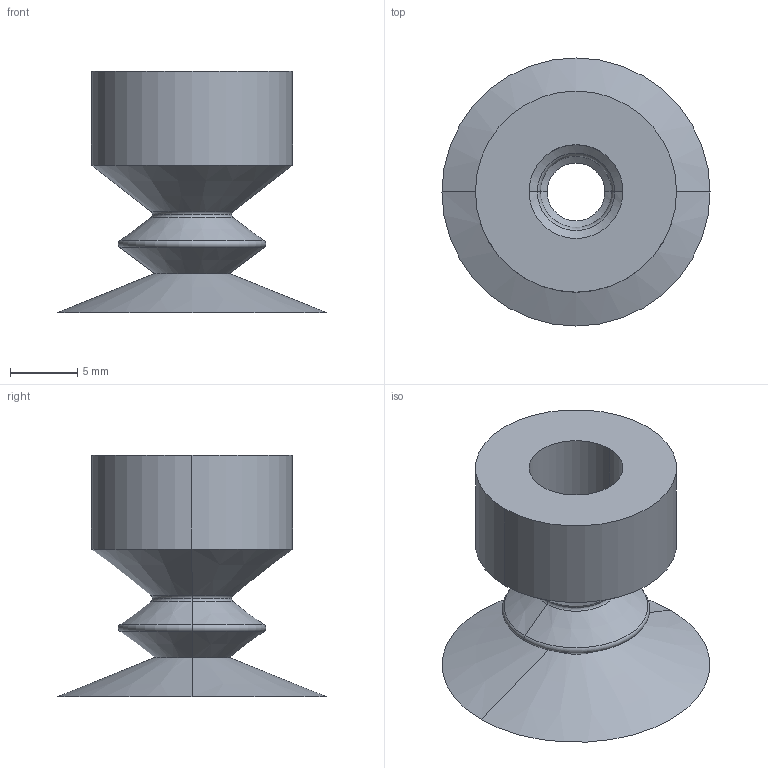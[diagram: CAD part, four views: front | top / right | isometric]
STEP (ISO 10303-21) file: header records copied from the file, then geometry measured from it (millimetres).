
FILE_DESCRIPTION (( 'STEP AP214' ), '1' );
FILE_NAME ('VSH2-S20.STEP', '2019-12-02T05:55:53', ( '微软用户' ), ( '微软中国' ), 'SwSTEP 2.0', 'SolidWorks 2016', '' );
FILE_SCHEMA (( 'AUTOMOTIVE_DESIGN' ));
Length unit declared in the file: millimetre
Products named in the file (1): VSH2-S20
Bounding box: 20 x 20 x 18 mm (x, y, z)
Volume: 914.7 mm3; surface area: 2147.1 mm2
Topology: 1 solids, 1 shells, 35 faces, 70 edges, 38 vertices
Faces by surface type: cone 16, torus 10, cylinder 6, plane 3
Entity records: 942 total; most frequent: DIRECTION 190, CARTESIAN_POINT 144, ORIENTED_EDGE 140, AXIS2_PLACEMENT_3D 84, EDGE_CURVE 70, CIRCLE 48, VERTEX_POINT 38, EDGE_LOOP 38
